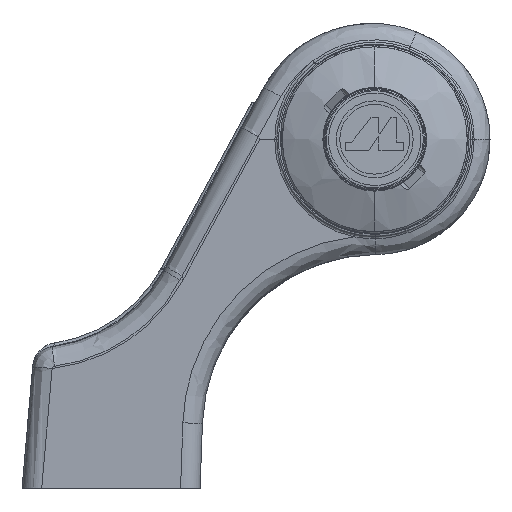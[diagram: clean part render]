
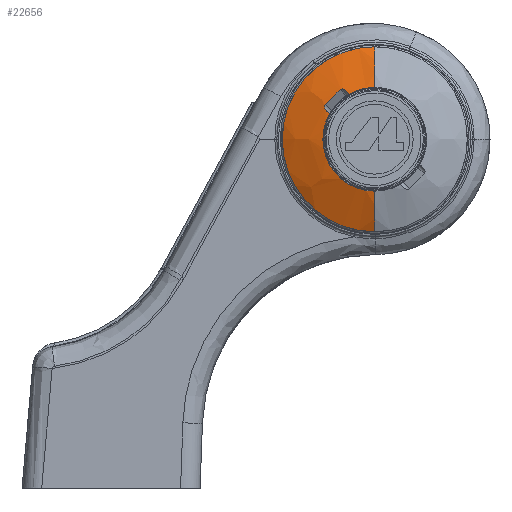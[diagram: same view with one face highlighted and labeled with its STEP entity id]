
A CAD part, front view. The second image highlights one B-rep face of the part: STEP entity #22656.
In plain terms, the highlighted free-form (B-spline) face has degree [3, 3] with [4, 4] control points.
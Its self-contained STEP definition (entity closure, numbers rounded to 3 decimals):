
#152 = CARTESIAN_POINT ( 'NONE',  ( 53.2, -99.481, 42.571 ) ) ;
#604 = EDGE_CURVE ( 'NONE', #37669, #27133, #47603, .T. ) ;
#1442 = CARTESIAN_POINT ( 'NONE',  ( 46.182, -99.317, 54.198 ) ) ;
#1934 = CARTESIAN_POINT ( 'NONE',  ( 45.988, -99.21, 54.699 ) ) ;
#2218 = AXIS2_PLACEMENT_3D ( 'NONE', #9292, #22964, #18505 ) ;
#2544 = CARTESIAN_POINT ( 'NONE',  ( 46.124, -99.202, 54.952 ) ) ;
#2966 = CARTESIAN_POINT ( 'NONE',  ( 46.182, -99.317, 54.198 ) ) ;
#3916 = B_SPLINE_CURVE_WITH_KNOTS ( 'NONE', 3,
 ( #6567, #38399, #30501, #10765 ),
 .UNSPECIFIED., .F., .F.,
 ( 4, 4 ),
 ( 0., 0.003 ),
 .UNSPECIFIED. ) ;
#4253 = CARTESIAN_POINT ( 'NONE',  ( 53.2, -99.481, 42.571 ) ) ;
#4479 = EDGE_CURVE ( 'NONE', #36451, #37669, #6017, .T. ) ;
#4545 = CARTESIAN_POINT ( 'NONE',  ( 49.002, -99.317, 57.018 ) ) ;
#4866 = AXIS2_PLACEMENT_3D ( 'NONE', #51662, #22296, #38343 ) ;
#5104 = CARTESIAN_POINT ( 'NONE',  ( 46.032, -99.257, 54.426 ) ) ;
#5192 = VERTEX_POINT ( 'NONE', #4545 ) ;
#5563 = ORIENTED_EDGE ( 'NONE', *, *, #38683, .T. ) ;
#5726 = CARTESIAN_POINT ( 'NONE',  ( 26.714, -97.345, 36.757 ) ) ;
#5893 = EDGE_CURVE ( 'NONE', #32181, #43235, #28397, .T. ) ;
#6017 = CIRCLE ( 'NONE', #27889, 20. ) ;
#6567 = CARTESIAN_POINT ( 'NONE',  ( 46.124, -99.202, 54.952 ) ) ;
#7581 = DIRECTION ( 'NONE',  ( 0., -1., 0. ) ) ;
#8054 = CARTESIAN_POINT ( 'NONE',  ( 53.2, -99.481, 57.429 ) ) ;
#8126 = EDGE_CURVE ( 'NONE', #27133, #43940, #35198, .T. ) ;
#8725 = CARTESIAN_POINT ( 'NONE',  ( 48.248, -99.202, 57.076 ) ) ;
#8750 = ORIENTED_EDGE ( 'NONE', *, *, #4479, .T. ) ;
#9253 = DIRECTION ( 'NONE',  ( 0., 0., 1. ) ) ;
#9292 = CARTESIAN_POINT ( 'NONE',  ( 53.2, -99.481, 50. ) ) ;
#9437 = VERTEX_POINT ( 'NONE', #8725 ) ;
#9767 = ORIENTED_EDGE ( 'NONE', *, *, #9942, .T. ) ;
#9942 = EDGE_CURVE ( 'NONE', #25990, #36451, #22604, .T. ) ;
#10112 = ORIENTED_EDGE ( 'NONE', *, *, #5893, .T. ) ;
#10765 = CARTESIAN_POINT ( 'NONE',  ( 48.248, -99.202, 57.076 ) ) ;
#11303 = AXIS2_PLACEMENT_3D ( 'NONE', #38680, #34720, #51037 ) ;
#12312 = CARTESIAN_POINT ( 'NONE',  ( 53.2, -99.481, 57.429 ) ) ;
#13170 = CARTESIAN_POINT ( 'NONE',  ( 49.002, -99.317, 57.018 ) ) ;
#14036 = CARTESIAN_POINT ( 'NONE',  ( 46.133, -99.301, 54.247 ) ) ;
#14738 = B_SPLINE_CURVE_WITH_KNOTS ( 'NONE', 3,
 ( #13170, #22115, #42897, #31046 ),
 .UNSPECIFIED., .F., .F.,
 ( 4, 4 ),
 ( 0., 0.001 ),
 .UNSPECIFIED. ) ;
#15394 = CARTESIAN_POINT ( 'NONE',  ( 48.248, -99.202, 57.076 ) ) ;
#16658 = EDGE_CURVE ( 'NONE', #43940, #18857, #38779, .T. ) ;
#18505 = DIRECTION ( 'NONE',  ( -0.5, 0., 0.866 ) ) ;
#18857 = VERTEX_POINT ( 'NONE', #2544 ) ;
#19136 = CARTESIAN_POINT ( 'NONE',  ( 53.2, -99.075, 59.471 ) ) ;
#19354 = CARTESIAN_POINT ( 'NONE',  ( 48.775, -99.254, 57.181 ) ) ;
#19396 = CARTESIAN_POINT ( 'NONE',  ( 38.341, -99.481, 57.429 ) ) ;
#19626 = ORIENTED_EDGE ( 'NONE', *, *, #8126, .T. ) ;
#19649 = CARTESIAN_POINT ( 'NONE',  ( 38.341, -99.481, 42.571 ) ) ;
#20162 = CARTESIAN_POINT ( 'NONE',  ( 34.259, -99.075, 40.529 ) ) ;
#20367 = CARTESIAN_POINT ( 'NONE',  ( 48.904, -99.285, 57.115 ) ) ;
#21614 = CARTESIAN_POINT ( 'NONE',  ( 53.2, -79.867, 46.478 ) ) ;
#21781 = CARTESIAN_POINT ( 'NONE',  ( 30.352, -98.357, 38.576 ) ) ;
#22115 = CARTESIAN_POINT ( 'NONE',  ( 49.186, -99.377, 56.838 ) ) ;
#22296 = DIRECTION ( 'NONE',  ( 0., 1., 0. ) ) ;
#22561 = FACE_OUTER_BOUND ( 'NONE', #42795, .T. ) ;
#22604 = CIRCLE ( 'NONE', #42768, 13.243 ) ;
#22656 = ADVANCED_FACE ( 'NONE', ( #22561 ), #36763, .T. ) ;
#22821 = CARTESIAN_POINT ( 'NONE',  ( 53.2, -98.357, 38.576 ) ) ;
#22964 = DIRECTION ( 'NONE',  ( 0., 1., 0. ) ) ;
#23589 = CARTESIAN_POINT ( 'NONE',  ( 53.2, -98.357, 61.424 ) ) ;
#23798 = CARTESIAN_POINT ( 'NONE',  ( 48.352, -99.197, 57.173 ) ) ;
#23940 = ORIENTED_EDGE ( 'NONE', *, *, #16658, .T. ) ;
#24752 = CIRCLE ( 'NONE', #11303, 20. ) ;
#25110 = CARTESIAN_POINT ( 'NONE',  ( 46.182, -99.317, 54.198 ) ) ;
#25307 = ORIENTED_EDGE ( 'NONE', *, *, #604, .T. ) ;
#25854 = EDGE_CURVE ( 'NONE', #9437, #5192, #32854, .T. ) ;
#25990 = VERTEX_POINT ( 'NONE', #28534 ) ;
#26095 = ORIENTED_EDGE ( 'NONE', *, *, #25854, .T. ) ;
#26775 = CARTESIAN_POINT ( 'NONE',  ( 53.2, -97.345, 36.757 ) ) ;
#27133 = VERTEX_POINT ( 'NONE', #37728 ) ;
#27889 = AXIS2_PLACEMENT_3D ( 'NONE', #21614, #37674, #9253 ) ;
#28059 = CARTESIAN_POINT ( 'NONE',  ( 34.259, -99.075, 59.471 ) ) ;
#28397 = CIRCLE ( 'NONE', #4866, 7.429 ) ;
#28534 = CARTESIAN_POINT ( 'NONE',  ( 53.2, -97.345, 63.243 ) ) ;
#30501 = CARTESIAN_POINT ( 'NONE',  ( 47.514, -99.238, 56.394 ) ) ;
#30597 = CARTESIAN_POINT ( 'NONE',  ( 46.362, -99.377, 54.014 ) ) ;
#30958 = CARTESIAN_POINT ( 'NONE',  ( 53.2, -99.075, 40.529 ) ) ;
#31046 = CARTESIAN_POINT ( 'NONE',  ( 49.555, -99.481, 56.474 ) ) ;
#32181 = VERTEX_POINT ( 'NONE', #51711 ) ;
#32854 = B_SPLINE_CURVE_WITH_KNOTS ( 'NONE', 3,
 ( #15394, #23798, #47751, #19354, #20367, #51943 ),
 .UNSPECIFIED., .F., .F.,
 ( 4, 2, 4 ),
 ( 0., 0., 0.001 ),
 .UNSPECIFIED. ) ;
#34019 = CARTESIAN_POINT ( 'NONE',  ( 46.124, -99.202, 54.952 ) ) ;
#34249 = ORIENTED_EDGE ( 'NONE', *, *, #46938, .T. ) ;
#34538 = CARTESIAN_POINT ( 'NONE',  ( 46.726, -99.481, 53.645 ) ) ;
#34720 = DIRECTION ( 'NONE',  ( -1., 0., 0. ) ) ;
#34795 = CARTESIAN_POINT ( 'NONE',  ( 46.544, -99.432, 53.83 ) ) ;
#35198 = B_SPLINE_CURVE_WITH_KNOTS ( 'NONE', 3,
 ( #34538, #34795, #30597, #2966 ),
 .UNSPECIFIED., .F., .F.,
 ( 4, 4 ),
 ( 0., 0.001 ),
 .UNSPECIFIED. ) ;
#36451 = VERTEX_POINT ( 'NONE', #48502 ) ;
#36763 =( BOUNDED_SURFACE ( )  B_SPLINE_SURFACE ( 3, 3, ( 
 ( #26775, #5726, #38609, #42813 ),
 ( #22821, #21781, #39887, #23589 ),
 ( #30958, #20162, #28059, #19136 ),
 ( #152, #19649, #19396, #8054 ) ),
 .UNSPECIFIED., .F., .F., .F. ) 
 B_SPLINE_SURFACE_WITH_KNOTS ( ( 4, 4 ),
 ( 4, 4 ),
 ( 0.054, 0.949 ),
 ( 0., 1. ),
 .UNSPECIFIED. ) 
 GEOMETRIC_REPRESENTATION_ITEM ( )  RATIONAL_B_SPLINE_SURFACE ( (
 ( 0.998, 0.333, 0.333, 0.998),
 ( 0.99, 0.33, 0.33, 0.99),
 ( 0.991, 0.33, 0.33, 0.991),
 ( 0.999, 0.333, 0.333, 0.999) ) ) 
 REPRESENTATION_ITEM ( '' )  SURFACE ( )  );
#37669 = VERTEX_POINT ( 'NONE', #4253 ) ;
#37674 = DIRECTION ( 'NONE',  ( -1., 0., 0. ) ) ;
#37728 = CARTESIAN_POINT ( 'NONE',  ( 46.726, -99.481, 53.645 ) ) ;
#37982 = CARTESIAN_POINT ( 'NONE',  ( 46.012, -99.243, 54.493 ) ) ;
#38343 = DIRECTION ( 'NONE',  ( 0.5, 0., -0.866 ) ) ;
#38399 = CARTESIAN_POINT ( 'NONE',  ( 46.806, -99.238, 55.686 ) ) ;
#38609 = CARTESIAN_POINT ( 'NONE',  ( 26.714, -97.345, 63.243 ) ) ;
#38680 = CARTESIAN_POINT ( 'NONE',  ( 53.2, -79.867, 53.522 ) ) ;
#38683 = EDGE_CURVE ( 'NONE', #5192, #32181, #14738, .T. ) ;
#38779 = B_SPLINE_CURVE_WITH_KNOTS ( 'NONE', 3,
 ( #25110, #14036, #49826, #5104, #37982, #1934, #41400, #34019 ),
 .UNSPECIFIED., .F., .F.,
 ( 4, 2, 2, 4 ),
 ( 0., 0., 0., 0.001 ),
 .UNSPECIFIED. ) ;
#39887 = CARTESIAN_POINT ( 'NONE',  ( 30.352, -98.357, 61.424 ) ) ;
#41400 = CARTESIAN_POINT ( 'NONE',  ( 46.027, -99.197, 54.847 ) ) ;
#41651 = EDGE_CURVE ( 'NONE', #43235, #25990, #24752, .T. ) ;
#42768 = AXIS2_PLACEMENT_3D ( 'NONE', #43629, #7581, #45437 ) ;
#42795 = EDGE_LOOP ( 'NONE', ( #8750, #25307, #19626, #23940, #34249, #26095, #5563, #10112, #51065, #9767 ) ) ;
#42813 = CARTESIAN_POINT ( 'NONE',  ( 53.2, -97.345, 63.243 ) ) ;
#42897 = CARTESIAN_POINT ( 'NONE',  ( 49.37, -99.432, 56.656 ) ) ;
#43235 = VERTEX_POINT ( 'NONE', #12312 ) ;
#43629 = CARTESIAN_POINT ( 'NONE',  ( 53.2, -97.345, 50. ) ) ;
#43940 = VERTEX_POINT ( 'NONE', #1442 ) ;
#45437 = DIRECTION ( 'NONE',  ( 0.145, 0., -0.989 ) ) ;
#46938 = EDGE_CURVE ( 'NONE', #18857, #9437, #3916, .T. ) ;
#47603 = CIRCLE ( 'NONE', #2218, 7.429 ) ;
#47751 = CARTESIAN_POINT ( 'NONE',  ( 48.499, -99.21, 57.212 ) ) ;
#48502 = CARTESIAN_POINT ( 'NONE',  ( 53.2, -97.345, 36.757 ) ) ;
#49826 = CARTESIAN_POINT ( 'NONE',  ( 46.094, -99.286, 54.303 ) ) ;
#51037 = DIRECTION ( 'NONE',  ( 0., 0., 1. ) ) ;
#51065 = ORIENTED_EDGE ( 'NONE', *, *, #41651, .T. ) ;
#51662 = CARTESIAN_POINT ( 'NONE',  ( 53.2, -99.481, 50. ) ) ;
#51711 = CARTESIAN_POINT ( 'NONE',  ( 49.555, -99.481, 56.474 ) ) ;
#51943 = CARTESIAN_POINT ( 'NONE',  ( 49.002, -99.317, 57.018 ) ) ;
